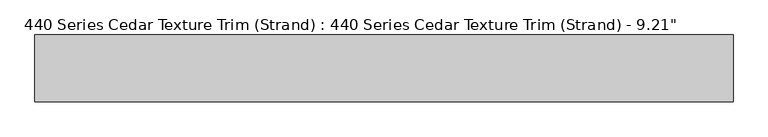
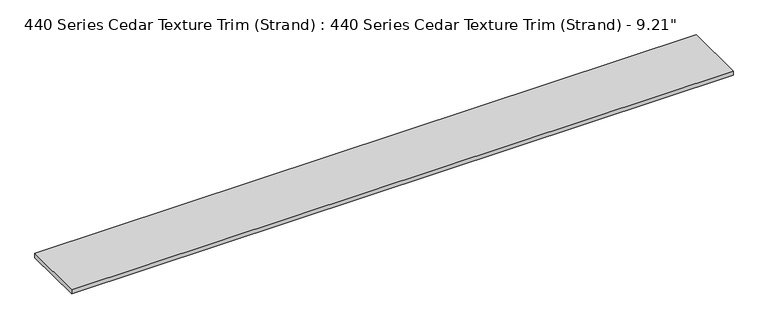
"""IFC4 building model written with IfcOpenShell, lengths in millimetres: proxy geometry."""

from ifc_helpers import new_model, si_unit, origin, origin_with_axes, place, context, project, spatial, polyline, outline, extrude, source, transform, mapped, element, save


def proxy_5d3a3027(model_context):
    return source(origin(), model_context, "Body", "SweptSolid", [
        extrude(outline(polyline([(2438.4, 0.0), (0.0, 0.0), (0.0, 233.9578125), (2438.4, 233.9578125), (2438.4, 0.0)])), origin_with_axes(), (0.0, 0.0, 1.0), 15.875),
    ])


if __name__ == "__main__":
    model = new_model("IFC4")
    model_context = context("Model", 3, world=origin())
    ifc_project = project(units=[si_unit("LENGTHUNIT", "METRE", prefix="MILLI")], contexts=[model_context])
    site = spatial("IfcSite", under=ifc_project)
    building = spatial("IfcBuilding", under=site)
    placement = place(None, origin())
    proxy_shape = proxy_5d3a3027(model_context)
    element("IfcBuildingElementProxy", 1, Name="440 Series Cedar Texture Trim (Strand) : 440 Series Cedar Texture Trim (Strand) - 9.21\"", ObjectType="440 Series Cedar Texture Trim (Strand) : 440 Series Cedar Texture Trim (Strand) - 9.21\"", at=placement, inside=building, context=model_context, shape_type="MappedRepresentation", body=[
        mapped(proxy_shape, transform((0.0, 0.0, 0.0), x_axis=(1.0, 0.0, 0.0), y_axis=(0.0, 1.0, 0.0), z_axis=(0.0, 0.0, 1.0))),
    ])
    save(model, "model.ifc")
